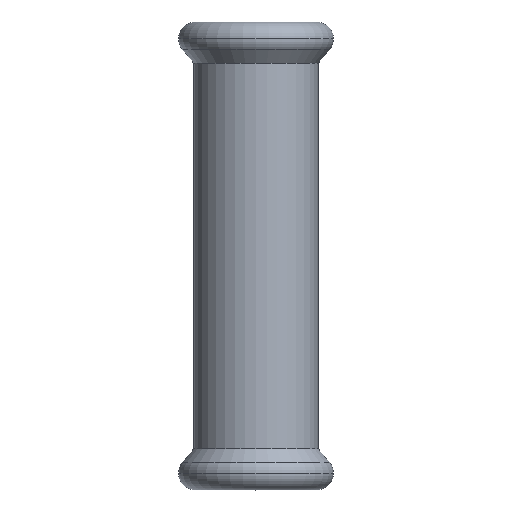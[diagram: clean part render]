
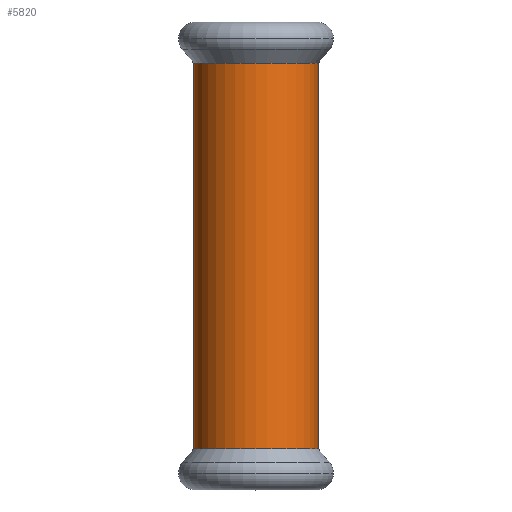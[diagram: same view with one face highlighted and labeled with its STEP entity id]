
A CAD part, top view. The second image highlights one B-rep face of the part: STEP entity #5820.
In plain terms, the highlighted cylindrical face has radius 10.625 mm (diameter 21.25 mm), a partial arc.
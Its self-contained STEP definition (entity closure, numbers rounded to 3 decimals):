
#800=CARTESIAN_POINT('',(-192.351,58.105,0.));
#810=VERTEX_POINT('',#800);
#990=CARTESIAN_POINT('',(-213.601,58.105,
0.));
#1000=VERTEX_POINT('',#990);
#1030=CARTESIAN_POINT('',(-202.976,58.105,0.));
#1040=DIRECTION('',(0.,1.,0.));
#1050=DIRECTION('',(-1.,0.,0.));
#1060=AXIS2_PLACEMENT_3D('',#1030,#1040,#1050);
#1070=CIRCLE('',#1060,10.625);
#1130=CARTESIAN_POINT('',(-202.976,51.34,0.));
#1140=DIRECTION('',(0.,-1.,0.));
#1150=DIRECTION('',(-1.,0.,0.));
#1160=AXIS2_PLACEMENT_3D('',#1130,#1140,#1150);
#1170=CYLINDRICAL_SURFACE('',#1160,10.625);
#1180=CARTESIAN_POINT('',(-192.351,51.34,
0.));
#1190=DIRECTION('',(0.,-1.,0.));
#1200=VECTOR('',#1190,1.);
#1210=LINE('',#1180,#1200);
#1220=CARTESIAN_POINT('',(-192.351,-7.864,
0.));
#1230=VERTEX_POINT('',#1220);
#1240=EDGE_CURVE('',#810,#1230,#1210,.T.);
#1270=CARTESIAN_POINT('',(-213.601,51.34,0.));
#1280=DIRECTION('',(0.,-1.,0.));
#1290=VECTOR('',#1280,1.);
#1300=LINE('',#1270,#1290);
#1310=CARTESIAN_POINT('',(-213.601,-7.864,0.));
#1320=VERTEX_POINT('',#1310);
#1330=EDGE_CURVE('',#1000,#1320,#1300,.T.);
#1350=CARTESIAN_POINT('',(-202.976,-7.864,0.));
#1360=DIRECTION('',(0.,-1.,0.));
#1370=DIRECTION('',(1.,0.,0.));
#1380=AXIS2_PLACEMENT_3D('',#1350,#1360,#1370);
#1390=CIRCLE('',#1380,10.625);
#5110=EDGE_CURVE('',#1000,#810,#1070,.T.);
#5480=EDGE_CURVE('',#1230,#1320,#1390,.T.);
#5760=ORIENTED_EDGE('',*,*,#5110,.F.);
#5770=ORIENTED_EDGE('',*,*,#1240,.F.);
#5780=ORIENTED_EDGE('',*,*,#5480,.F.);
#5790=ORIENTED_EDGE('',*,*,#1330,.T.);
#5800=EDGE_LOOP('',(#5790,#5780,#5770,#5760));
#5810=FACE_OUTER_BOUND('',#5800,.T.);
#5820=ADVANCED_FACE('',(#5810),#1170,.T.);
